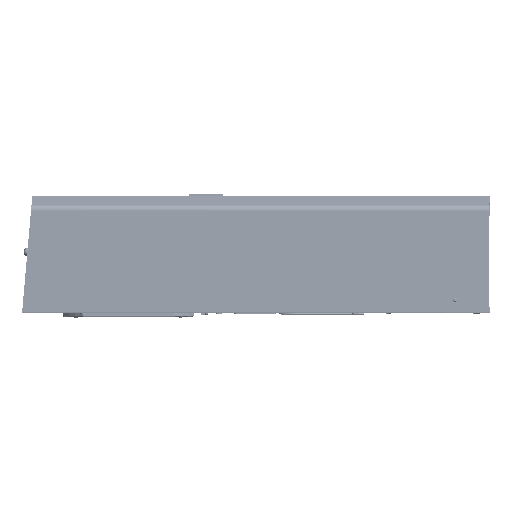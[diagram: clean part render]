
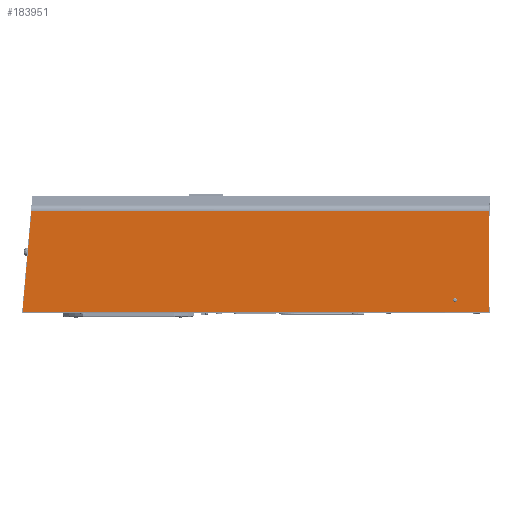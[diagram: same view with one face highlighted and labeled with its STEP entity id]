
A CAD part, left-side view. The second image highlights one B-rep face of the part: STEP entity #183951.
In plain terms, the highlighted planar face has unit normal (-1, 0, 0).
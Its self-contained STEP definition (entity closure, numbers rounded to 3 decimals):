
#6466 = CARTESIAN_POINT ( 'NONE',  ( -196.5, 947.37, -30.62 ) ) ;
#7148 = DIRECTION ( 'NONE',  ( 0., 0., -1. ) ) ;
#11716 = DIRECTION ( 'NONE',  ( 1., 0., 0. ) ) ;
#12460 = CARTESIAN_POINT ( 'NONE',  ( -196.5, 965.732, -240.5 ) ) ;
#16394 = ORIENTED_EDGE ( 'NONE', *, *, #183343, .T. ) ;
#23332 = AXIS2_PLACEMENT_3D ( 'NONE', #117370, #139515, #7148 ) ;
#24978 = AXIS2_PLACEMENT_3D ( 'NONE', #210161, #78012, #232536 ) ;
#26990 = CARTESIAN_POINT ( 'NONE',  ( -196.5, 0.784, -30.62 ) ) ;
#28496 = PLANE ( 'NONE',  #23332 ) ;
#33905 = DIRECTION ( 'NONE',  ( 0., -1., 0. ) ) ;
#40178 = DIRECTION ( 'NONE',  ( 0., -0.996, -0.087 ) ) ;
#53071 = ORIENTED_EDGE ( 'NONE', *, *, #172883, .T. ) ;
#64176 = DIRECTION ( 'NONE',  ( 0., -0.087, 0.996 ) ) ;
#67203 = VECTOR ( 'NONE', #40178, 1000. ) ;
#73734 = LINE ( 'NONE', #266018, #177200 ) ;
#78012 = DIRECTION ( 'NONE',  ( 1., 0., 0. ) ) ;
#79613 = VERTEX_POINT ( 'NONE', #247456 ) ;
#84819 = ORIENTED_EDGE ( 'NONE', *, *, #112112, .T. ) ;
#86911 = CARTESIAN_POINT ( 'NONE',  ( -196.5, 967.553, -261.315 ) ) ;
#86917 = CARTESIAN_POINT ( 'NONE',  ( -196.5, 0.784, -30.62 ) ) ;
#87412 = CARTESIAN_POINT ( 'NONE',  ( -196.5, 72.184, -217.9 ) ) ;
#91177 = ORIENTED_EDGE ( 'NONE', *, *, #183389, .F. ) ;
#93927 = ORIENTED_EDGE ( 'NONE', *, *, #226381, .T. ) ;
#94860 = FACE_BOUND ( 'NONE', #202009, .T. ) ;
#111608 = DIRECTION ( 'NONE',  ( 0., -0.996, -0.087 ) ) ;
#112112 = EDGE_CURVE ( 'NONE', #213213, #246869, #204680, .T. ) ;
#117370 = CARTESIAN_POINT ( 'NONE',  ( -196.5, 943.784, -30.62 ) ) ;
#117496 = LINE ( 'NONE', #268390, #124410 ) ;
#121279 = ORIENTED_EDGE ( 'NONE', *, *, #187228, .F. ) ;
#123247 = AXIS2_PLACEMENT_3D ( 'NONE', #143961, #11716, #166197 ) ;
#124410 = VECTOR ( 'NONE', #136017, 1000. ) ;
#125876 = LINE ( 'NONE', #260528, #67203 ) ;
#126044 = DIRECTION ( 'NONE',  ( 0., -1., 0. ) ) ;
#130078 = ORIENTED_EDGE ( 'NONE', *, *, #188455, .F. ) ;
#136017 = DIRECTION ( 'NONE',  ( 0., 0.087, -0.996 ) ) ;
#139515 = DIRECTION ( 'NONE',  ( 1., 0., 0. ) ) ;
#143961 = CARTESIAN_POINT ( 'NONE',  ( -196.5, 72.184, -215.3 ) ) ;
#146688 = VECTOR ( 'NONE', #33905, 1000. ) ;
#153679 = CIRCLE ( 'NONE', #123247, 2.6 ) ;
#156270 = VECTOR ( 'NONE', #64176, 1000. ) ;
#159284 = DIRECTION ( 'NONE',  ( 0., 0., 1. ) ) ;
#163805 = ORIENTED_EDGE ( 'NONE', *, *, #191526, .T. ) ;
#166197 = DIRECTION ( 'NONE',  ( 0., 0., -1. ) ) ;
#172530 = VERTEX_POINT ( 'NONE', #12460 ) ;
#172736 = ORIENTED_EDGE ( 'NONE', *, *, #236598, .T. ) ;
#172883 = EDGE_CURVE ( 'NONE', #267990, #264925, #274242, .T. ) ;
#177200 = VECTOR ( 'NONE', #111608, 1000. ) ;
#181356 = VERTEX_POINT ( 'NONE', #244364 ) ;
#182914 = EDGE_CURVE ( 'NONE', #172530, #213213, #250913, .T. ) ;
#183343 = EDGE_CURVE ( 'NONE', #264925, #267990, #153679, .T. ) ;
#183389 = EDGE_CURVE ( 'NONE', #252507, #246869, #264357, .T. ) ;
#183951 = ADVANCED_FACE ( 'NONE', ( #94860, #212315 ), #28496, .F. ) ;
#187228 = EDGE_CURVE ( 'NONE', #181356, #79613, #125876, .T. ) ;
#187477 = CARTESIAN_POINT ( 'NONE',  ( -196.5, 943.784, -30.62 ) ) ;
#188321 = VERTEX_POINT ( 'NONE', #236213 ) ;
#188455 = EDGE_CURVE ( 'NONE', #188321, #181356, #215236, .T. ) ;
#189313 = VECTOR ( 'NONE', #195890, 1000. ) ;
#191210 = EDGE_LOOP ( 'NONE', ( #84819, #91177, #93927, #121279, #130078, #163805, #172736, #209886 ) ) ;
#191526 = EDGE_CURVE ( 'NONE', #188321, #275581, #73734, .T. ) ;
#195890 = DIRECTION ( 'NONE',  ( 0., 0.087, -0.996 ) ) ;
#197782 = VECTOR ( 'NONE', #159284, 1000. ) ;
#200817 = CARTESIAN_POINT ( 'NONE',  ( -196.5, 964.163, -222.568 ) ) ;
#202009 = EDGE_LOOP ( 'NONE', ( #16394, #53071 ) ) ;
#204680 = LINE ( 'NONE', #26990, #197782 ) ;
#209886 = ORIENTED_EDGE ( 'NONE', *, *, #182914, .T. ) ;
#210161 = CARTESIAN_POINT ( 'NONE',  ( -196.5, 72.184, -215.3 ) ) ;
#212315 = FACE_OUTER_BOUND ( 'NONE', #191210, .T. ) ;
#213213 = VERTEX_POINT ( 'NONE', #261821 ) ;
#215236 = LINE ( 'NONE', #240060, #156270 ) ;
#226381 = EDGE_CURVE ( 'NONE', #252507, #79613, #248340, .T. ) ;
#232536 = DIRECTION ( 'NONE',  ( 0., 0., -1. ) ) ;
#236213 = CARTESIAN_POINT ( 'NONE',  ( -196.5, 964.761, -222.516 ) ) ;
#236598 = EDGE_CURVE ( 'NONE', #275581, #172530, #117496, .T. ) ;
#240060 = CARTESIAN_POINT ( 'NONE',  ( -196.5, 964.761, -222.516 ) ) ;
#244007 = VECTOR ( 'NONE', #126044, 1000. ) ;
#244364 = CARTESIAN_POINT ( 'NONE',  ( -196.5, 964.325, -217.535 ) ) ;
#246869 = VERTEX_POINT ( 'NONE', #86917 ) ;
#247456 = CARTESIAN_POINT ( 'NONE',  ( -196.5, 963.727, -217.588 ) ) ;
#248340 = LINE ( 'NONE', #86911, #189313 ) ;
#250913 = LINE ( 'NONE', #281429, #244007 ) ;
#252507 = VERTEX_POINT ( 'NONE', #6466 ) ;
#260528 = CARTESIAN_POINT ( 'NONE',  ( -196.5, 964.325, -217.535 ) ) ;
#261821 = CARTESIAN_POINT ( 'NONE',  ( -196.5, 0.784, -240.5 ) ) ;
#264357 = LINE ( 'NONE', #187477, #146688 ) ;
#264925 = VERTEX_POINT ( 'NONE', #87412 ) ;
#266018 = CARTESIAN_POINT ( 'NONE',  ( -196.5, 964.761, -222.516 ) ) ;
#267990 = VERTEX_POINT ( 'NONE', #285475 ) ;
#268390 = CARTESIAN_POINT ( 'NONE',  ( -196.5, 967.553, -261.315 ) ) ;
#274242 = CIRCLE ( 'NONE', #24978, 2.6 ) ;
#275581 = VERTEX_POINT ( 'NONE', #200817 ) ;
#281429 = CARTESIAN_POINT ( 'NONE',  ( -196.5, 943.784, -240.5 ) ) ;
#285475 = CARTESIAN_POINT ( 'NONE',  ( -196.5, 72.184, -212.7 ) ) ;
